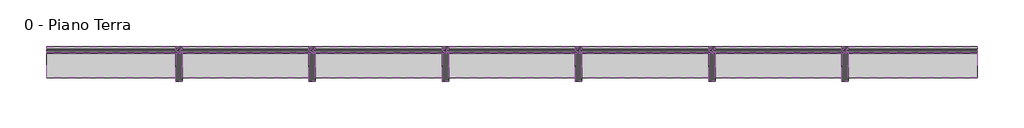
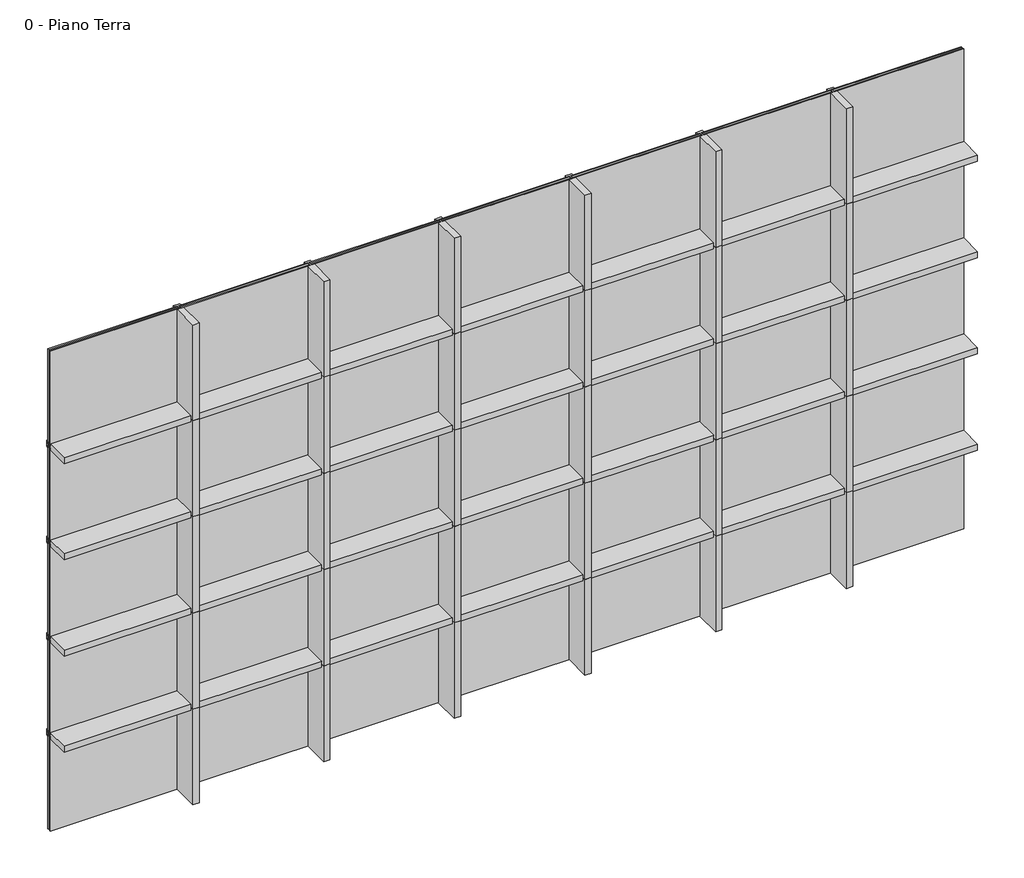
# One storey: 58 members, 35 plates.
"""IFC4 building model written with IfcOpenShell, lengths in millimetres."""

from ifc_helpers import new_model, si_unit, origin, place, context, project, spatial, transform, mapped, element, save
from components import montante_rettangolare_eeaf3a97, montante_rettangolare_05e2e7f5, montante_rettangolare_42aabf74, montante_rettangolare_7fc66ecf, montante_rettangolare_3d79a1b0, plate_78587679

model = new_model("IFC4")

# Units and contexts
model_context = context("Model", 3, world=origin())
ifc_project = project(units=[si_unit("LENGTHUNIT", "METRE", prefix="MILLI")], contexts=[model_context])

# Site, building, storey
site = spatial("IfcSite", under=ifc_project)
building = spatial("IfcBuilding", under=site)
storey = spatial("IfcBuildingStorey", under=building, Name="0 - Piano Terra", Elevation=0.0)

# Members
placement = place(None, origin())
montante_rettangolare_shape = montante_rettangolare_eeaf3a97(model_context)
element("IfcMember", 1, ObjectType="Montante rettangolare : Aluk_SL50_Montante K735_vetro 32", at=placement, inside=storey, context=model_context, shape_type="MappedRepresentation", body=[
    mapped(montante_rettangolare_shape, transform((-9691.0747002, -189.1549061, 0.0), x_axis=(1.0, 0.0, 0.0), y_axis=(0.0, -1.0, 0.0), z_axis=(0.0, 0.0, -1.0))),
])
element("IfcMember", 2, ObjectType="Montante rettangolare : Aluk_SL50_Montante K735_vetro 32", at=placement, inside=storey, context=model_context, shape_type="MappedRepresentation", body=[
    mapped(montante_rettangolare_shape, transform((-8660.931843, -189.1549061, 0.0), x_axis=(1.0, 0.0, 0.0), y_axis=(0.0, -1.0, 0.0), z_axis=(0.0, 0.0, -1.0))),
])
element("IfcMember", 3, ObjectType="Montante rettangolare : Aluk_SL50_Montante K735_vetro 32", at=placement, inside=storey, context=model_context, shape_type="MappedRepresentation", body=[
    mapped(montante_rettangolare_shape, transform((-7630.7889859, -189.1549061, 0.0), x_axis=(1.0, 0.0, 0.0), y_axis=(0.0, -1.0, 0.0), z_axis=(0.0, 0.0, -1.0))),
])
element("IfcMember", 4, ObjectType="Montante rettangolare : Aluk_SL50_Montante K735_vetro 32", at=placement, inside=storey, context=model_context, shape_type="MappedRepresentation", body=[
    mapped(montante_rettangolare_shape, transform((-6600.6461287, -189.1549061, 0.0), x_axis=(1.0, 0.0, 0.0), y_axis=(0.0, -1.0, 0.0), z_axis=(0.0, 0.0, -1.0))),
])
element("IfcMember", 5, ObjectType="Montante rettangolare : Aluk_SL50_Montante K735_vetro 32", at=placement, inside=storey, context=model_context, shape_type="MappedRepresentation", body=[
    mapped(montante_rettangolare_shape, transform((-5570.5032716, -189.1549061, 0.0), x_axis=(1.0, 0.0, 0.0), y_axis=(0.0, -1.0, 0.0), z_axis=(0.0, 0.0, -1.0))),
])
element("IfcMember", 6, ObjectType="Montante rettangolare : Aluk_SL50_Montante K735_vetro 32", at=placement, inside=storey, context=model_context, shape_type="MappedRepresentation", body=[
    mapped(montante_rettangolare_shape, transform((-4540.3604145, -189.1549061, 0.0), x_axis=(1.0, 0.0, 0.0), y_axis=(0.0, -1.0, 0.0), z_axis=(0.0, 0.0, -1.0))),
])
montante_rettangolare_2_shape = montante_rettangolare_05e2e7f5(model_context)
element("IfcMember", 7, ObjectType="Montante rettangolare : Aluk_SL50_Montante K735_vetro 32", at=placement, inside=storey, context=model_context, shape_type="MappedRepresentation", body=[
    mapped(montante_rettangolare_2_shape, transform((-9691.0747002, -189.1549061, 796.7), x_axis=(1.0, 0.0, 0.0), y_axis=(0.0, -1.0, 0.0), z_axis=(0.0, 0.0, -1.0))),
])
element("IfcMember", 8, ObjectType="Montante rettangolare : Aluk_SL50_Montante K735_vetro 32", at=placement, inside=storey, context=model_context, shape_type="MappedRepresentation", body=[
    mapped(montante_rettangolare_2_shape, transform((-8660.931843, -189.1549061, 796.7), x_axis=(1.0, 0.0, 0.0), y_axis=(0.0, -1.0, 0.0), z_axis=(0.0, 0.0, -1.0))),
])
element("IfcMember", 9, ObjectType="Montante rettangolare : Aluk_SL50_Montante K735_vetro 32", at=placement, inside=storey, context=model_context, shape_type="MappedRepresentation", body=[
    mapped(montante_rettangolare_2_shape, transform((-7630.7889859, -189.1549061, 796.7), x_axis=(1.0, 0.0, 0.0), y_axis=(0.0, -1.0, 0.0), z_axis=(0.0, 0.0, -1.0))),
])
element("IfcMember", 10, ObjectType="Montante rettangolare : Aluk_SL50_Montante K735_vetro 32", at=placement, inside=storey, context=model_context, shape_type="MappedRepresentation", body=[
    mapped(montante_rettangolare_2_shape, transform((-6600.6461287, -189.1549061, 796.7), x_axis=(1.0, 0.0, 0.0), y_axis=(0.0, -1.0, 0.0), z_axis=(0.0, 0.0, -1.0))),
])
element("IfcMember", 11, ObjectType="Montante rettangolare : Aluk_SL50_Montante K735_vetro 32", at=placement, inside=storey, context=model_context, shape_type="MappedRepresentation", body=[
    mapped(montante_rettangolare_2_shape, transform((-5570.5032716, -189.1549061, 796.7), x_axis=(1.0, 0.0, 0.0), y_axis=(0.0, -1.0, 0.0), z_axis=(0.0, 0.0, -1.0))),
])
element("IfcMember", 12, ObjectType="Montante rettangolare : Aluk_SL50_Montante K735_vetro 32", at=placement, inside=storey, context=model_context, shape_type="MappedRepresentation", body=[
    mapped(montante_rettangolare_2_shape, transform((-9691.0747002, -189.1549061, 1598.9), x_axis=(1.0, 0.0, 0.0), y_axis=(0.0, -1.0, 0.0), z_axis=(0.0, 0.0, -1.0))),
])
element("IfcMember", 13, ObjectType="Montante rettangolare : Aluk_SL50_Montante K735_vetro 32", at=placement, inside=storey, context=model_context, shape_type="MappedRepresentation", body=[
    mapped(montante_rettangolare_2_shape, transform((-8660.931843, -189.1549061, 1598.9), x_axis=(1.0, 0.0, 0.0), y_axis=(0.0, -1.0, 0.0), z_axis=(0.0, 0.0, -1.0))),
])
element("IfcMember", 14, ObjectType="Montante rettangolare : Aluk_SL50_Montante K735_vetro 32", at=placement, inside=storey, context=model_context, shape_type="MappedRepresentation", body=[
    mapped(montante_rettangolare_2_shape, transform((-7630.7889859, -189.1549061, 1598.9), x_axis=(1.0, 0.0, 0.0), y_axis=(0.0, -1.0, 0.0), z_axis=(0.0, 0.0, -1.0))),
])
element("IfcMember", 15, ObjectType="Montante rettangolare : Aluk_SL50_Montante K735_vetro 32", at=placement, inside=storey, context=model_context, shape_type="MappedRepresentation", body=[
    mapped(montante_rettangolare_2_shape, transform((-6600.6461287, -189.1549061, 1598.9), x_axis=(1.0, 0.0, 0.0), y_axis=(0.0, -1.0, 0.0), z_axis=(0.0, 0.0, -1.0))),
])
element("IfcMember", 16, ObjectType="Montante rettangolare : Aluk_SL50_Montante K735_vetro 32", at=placement, inside=storey, context=model_context, shape_type="MappedRepresentation", body=[
    mapped(montante_rettangolare_2_shape, transform((-5570.5032716, -189.1549061, 1598.9), x_axis=(1.0, 0.0, 0.0), y_axis=(0.0, -1.0, 0.0), z_axis=(0.0, 0.0, -1.0))),
])
element("IfcMember", 17, ObjectType="Montante rettangolare : Aluk_SL50_Montante K735_vetro 32", at=placement, inside=storey, context=model_context, shape_type="MappedRepresentation", body=[
    mapped(montante_rettangolare_2_shape, transform((-9691.0747002, -189.1549061, 2401.1), x_axis=(1.0, 0.0, 0.0), y_axis=(0.0, -1.0, 0.0), z_axis=(0.0, 0.0, -1.0))),
])
element("IfcMember", 18, ObjectType="Montante rettangolare : Aluk_SL50_Montante K735_vetro 32", at=placement, inside=storey, context=model_context, shape_type="MappedRepresentation", body=[
    mapped(montante_rettangolare_2_shape, transform((-8660.931843, -189.1549061, 2401.1), x_axis=(1.0, 0.0, 0.0), y_axis=(0.0, -1.0, 0.0), z_axis=(0.0, 0.0, -1.0))),
])
element("IfcMember", 19, ObjectType="Montante rettangolare : Aluk_SL50_Montante K735_vetro 32", at=placement, inside=storey, context=model_context, shape_type="MappedRepresentation", body=[
    mapped(montante_rettangolare_2_shape, transform((-7630.7889859, -189.1549061, 2401.1), x_axis=(1.0, 0.0, 0.0), y_axis=(0.0, -1.0, 0.0), z_axis=(0.0, 0.0, -1.0))),
])
element("IfcMember", 20, ObjectType="Montante rettangolare : Aluk_SL50_Montante K735_vetro 32", at=placement, inside=storey, context=model_context, shape_type="MappedRepresentation", body=[
    mapped(montante_rettangolare_2_shape, transform((-6600.6461287, -189.1549061, 2401.1), x_axis=(1.0, 0.0, 0.0), y_axis=(0.0, -1.0, 0.0), z_axis=(0.0, 0.0, -1.0))),
])
element("IfcMember", 21, ObjectType="Montante rettangolare : Aluk_SL50_Montante K735_vetro 32", at=placement, inside=storey, context=model_context, shape_type="MappedRepresentation", body=[
    mapped(montante_rettangolare_2_shape, transform((-5570.5032716, -189.1549061, 2401.1), x_axis=(1.0, 0.0, 0.0), y_axis=(0.0, -1.0, 0.0), z_axis=(0.0, 0.0, -1.0))),
])
element("IfcMember", 22, ObjectType="Montante rettangolare : Aluk_SL50_Montante K735_vetro 32", at=placement, inside=storey, context=model_context, shape_type="MappedRepresentation", body=[
    mapped(montante_rettangolare_2_shape, transform((-4540.3604145, -189.1549061, 796.7), x_axis=(1.0, 0.0, 0.0), y_axis=(0.0, -1.0, 0.0), z_axis=(0.0, 0.0, -1.0))),
])
element("IfcMember", 23, ObjectType="Montante rettangolare : Aluk_SL50_Montante K735_vetro 32", at=placement, inside=storey, context=model_context, shape_type="MappedRepresentation", body=[
    mapped(montante_rettangolare_2_shape, transform((-4540.3604145, -189.1549061, 1598.9), x_axis=(1.0, 0.0, 0.0), y_axis=(0.0, -1.0, 0.0), z_axis=(0.0, 0.0, -1.0))),
])
element("IfcMember", 24, ObjectType="Montante rettangolare : Aluk_SL50_Montante K735_vetro 32", at=placement, inside=storey, context=model_context, shape_type="MappedRepresentation", body=[
    mapped(montante_rettangolare_2_shape, transform((-4540.3604145, -189.1549061, 2401.1), x_axis=(1.0, 0.0, 0.0), y_axis=(0.0, -1.0, 0.0), z_axis=(0.0, 0.0, -1.0))),
])
element("IfcMember", 25, ObjectType="Montante rettangolare : Aluk_SL50_Montante K735_vetro 32", at=placement, inside=storey, context=model_context, shape_type="MappedRepresentation", body=[
    mapped(montante_rettangolare_shape, transform((-9691.0747002, -189.1549061, 3203.3), x_axis=(1.0, 0.0, 0.0), y_axis=(0.0, -1.0, 0.0), z_axis=(0.0, 0.0, -1.0))),
])
element("IfcMember", 26, ObjectType="Montante rettangolare : Aluk_SL50_Montante K735_vetro 32", at=placement, inside=storey, context=model_context, shape_type="MappedRepresentation", body=[
    mapped(montante_rettangolare_shape, transform((-8660.931843, -189.1549061, 3203.3), x_axis=(1.0, 0.0, 0.0), y_axis=(0.0, -1.0, 0.0), z_axis=(0.0, 0.0, -1.0))),
])
element("IfcMember", 27, ObjectType="Montante rettangolare : Aluk_SL50_Montante K735_vetro 32", at=placement, inside=storey, context=model_context, shape_type="MappedRepresentation", body=[
    mapped(montante_rettangolare_shape, transform((-7630.7889859, -189.1549061, 3203.3), x_axis=(1.0, 0.0, 0.0), y_axis=(0.0, -1.0, 0.0), z_axis=(0.0, 0.0, -1.0))),
])
element("IfcMember", 28, ObjectType="Montante rettangolare : Aluk_SL50_Montante K735_vetro 32", at=placement, inside=storey, context=model_context, shape_type="MappedRepresentation", body=[
    mapped(montante_rettangolare_shape, transform((-6600.6461287, -189.1549061, 3203.3), x_axis=(1.0, 0.0, 0.0), y_axis=(0.0, -1.0, 0.0), z_axis=(0.0, 0.0, -1.0))),
])
element("IfcMember", 29, ObjectType="Montante rettangolare : Aluk_SL50_Montante K735_vetro 32", at=placement, inside=storey, context=model_context, shape_type="MappedRepresentation", body=[
    mapped(montante_rettangolare_shape, transform((-5570.5032716, -189.1549061, 3203.3), x_axis=(1.0, 0.0, 0.0), y_axis=(0.0, -1.0, 0.0), z_axis=(0.0, 0.0, -1.0))),
])
element("IfcMember", 30, ObjectType="Montante rettangolare : Aluk_SL50_Montante K735_vetro 32", at=placement, inside=storey, context=model_context, shape_type="MappedRepresentation", body=[
    mapped(montante_rettangolare_shape, transform((-4540.3604145, -189.1549061, 3203.3), x_axis=(1.0, 0.0, 0.0), y_axis=(0.0, -1.0, 0.0), z_axis=(0.0, 0.0, -1.0))),
])
montante_rettangolare_3_shape = montante_rettangolare_42aabf74(model_context)
element("IfcMember", 31, ObjectType="Montante rettangolare : Aluk_SL50_Traverso K746_vetro 32", at=placement, inside=storey, context=model_context, shape_type="MappedRepresentation", body=[
    mapped(montante_rettangolare_3_shape, transform((-9716.1189426, -189.1549061, 796.7), x_axis=(0.0, 0.0, 1.0), y_axis=(0.0, -1.0, 0.0), z_axis=(1.0, 0.0, 0.0))),
])
element("IfcMember", 32, ObjectType="Montante rettangolare : Aluk_SL50_Traverso K746_vetro 32", at=placement, inside=storey, context=model_context, shape_type="MappedRepresentation", body=[
    mapped(montante_rettangolare_3_shape, transform((-9716.1189426, -189.1549061, 1598.9), x_axis=(0.0, 0.0, 1.0), y_axis=(0.0, -1.0, 0.0), z_axis=(1.0, 0.0, 0.0))),
])
element("IfcMember", 33, ObjectType="Montante rettangolare : Aluk_SL50_Traverso K746_vetro 32", at=placement, inside=storey, context=model_context, shape_type="MappedRepresentation", body=[
    mapped(montante_rettangolare_3_shape, transform((-9716.1189426, -189.1549061, 2401.1), x_axis=(0.0, 0.0, 1.0), y_axis=(0.0, -1.0, 0.0), z_axis=(1.0, 0.0, 0.0))),
])
element("IfcMember", 34, ObjectType="Montante rettangolare : Aluk_SL50_Traverso K746_vetro 32", at=placement, inside=storey, context=model_context, shape_type="MappedRepresentation", body=[
    mapped(montante_rettangolare_3_shape, transform((-9716.1189426, -189.1549061, 3203.3), x_axis=(0.0, 0.0, 1.0), y_axis=(0.0, -1.0, 0.0), z_axis=(1.0, 0.0, 0.0))),
])
montante_rettangolare_4_shape = montante_rettangolare_7fc66ecf(model_context)
element("IfcMember", 35, ObjectType="Montante rettangolare : Aluk_SL50_Traverso K746_vetro 32", at=placement, inside=storey, context=model_context, shape_type="MappedRepresentation", body=[
    mapped(montante_rettangolare_4_shape, transform((-8685.9760854, -189.1549061, 796.7), x_axis=(0.0, 0.0, 1.0), y_axis=(0.0, -1.0, 0.0), z_axis=(1.0, 0.0, 0.0))),
])
element("IfcMember", 36, ObjectType="Montante rettangolare : Aluk_SL50_Traverso K746_vetro 32", at=placement, inside=storey, context=model_context, shape_type="MappedRepresentation", body=[
    mapped(montante_rettangolare_4_shape, transform((-7655.8332283, -189.1549061, 796.7), x_axis=(0.0, 0.0, 1.0), y_axis=(0.0, -1.0, 0.0), z_axis=(1.0, 0.0, 0.0))),
])
element("IfcMember", 37, ObjectType="Montante rettangolare : Aluk_SL50_Traverso K746_vetro 32", at=placement, inside=storey, context=model_context, shape_type="MappedRepresentation", body=[
    mapped(montante_rettangolare_4_shape, transform((-6625.6903711, -189.1549061, 796.7), x_axis=(0.0, 0.0, 1.0), y_axis=(0.0, -1.0, 0.0), z_axis=(1.0, 0.0, 0.0))),
])
element("IfcMember", 38, ObjectType="Montante rettangolare : Aluk_SL50_Traverso K746_vetro 32", at=placement, inside=storey, context=model_context, shape_type="MappedRepresentation", body=[
    mapped(montante_rettangolare_4_shape, transform((-5595.547514, -189.1549061, 796.7), x_axis=(0.0, 0.0, 1.0), y_axis=(0.0, -1.0, 0.0), z_axis=(1.0, 0.0, 0.0))),
])
element("IfcMember", 39, ObjectType="Montante rettangolare : Aluk_SL50_Traverso K746_vetro 32", at=placement, inside=storey, context=model_context, shape_type="MappedRepresentation", body=[
    mapped(montante_rettangolare_4_shape, transform((-4565.4046569, -189.1549061, 796.7), x_axis=(0.0, 0.0, 1.0), y_axis=(0.0, -1.0, 0.0), z_axis=(1.0, 0.0, 0.0))),
])
element("IfcMember", 40, ObjectType="Montante rettangolare : Aluk_SL50_Traverso K746_vetro 32", at=placement, inside=storey, context=model_context, shape_type="MappedRepresentation", body=[
    mapped(montante_rettangolare_4_shape, transform((-8685.9760854, -189.1549061, 1598.9), x_axis=(0.0, 0.0, 1.0), y_axis=(0.0, -1.0, 0.0), z_axis=(1.0, 0.0, 0.0))),
])
element("IfcMember", 41, ObjectType="Montante rettangolare : Aluk_SL50_Traverso K746_vetro 32", at=placement, inside=storey, context=model_context, shape_type="MappedRepresentation", body=[
    mapped(montante_rettangolare_4_shape, transform((-7655.8332283, -189.1549061, 1598.9), x_axis=(0.0, 0.0, 1.0), y_axis=(0.0, -1.0, 0.0), z_axis=(1.0, 0.0, 0.0))),
])
element("IfcMember", 42, ObjectType="Montante rettangolare : Aluk_SL50_Traverso K746_vetro 32", at=placement, inside=storey, context=model_context, shape_type="MappedRepresentation", body=[
    mapped(montante_rettangolare_4_shape, transform((-6625.6903711, -189.1549061, 1598.9), x_axis=(0.0, 0.0, 1.0), y_axis=(0.0, -1.0, 0.0), z_axis=(1.0, 0.0, 0.0))),
])
element("IfcMember", 43, ObjectType="Montante rettangolare : Aluk_SL50_Traverso K746_vetro 32", at=placement, inside=storey, context=model_context, shape_type="MappedRepresentation", body=[
    mapped(montante_rettangolare_4_shape, transform((-5595.547514, -189.1549061, 1598.9), x_axis=(0.0, 0.0, 1.0), y_axis=(0.0, -1.0, 0.0), z_axis=(1.0, 0.0, 0.0))),
])
element("IfcMember", 44, ObjectType="Montante rettangolare : Aluk_SL50_Traverso K746_vetro 32", at=placement, inside=storey, context=model_context, shape_type="MappedRepresentation", body=[
    mapped(montante_rettangolare_4_shape, transform((-4565.4046569, -189.1549061, 1598.9), x_axis=(0.0, 0.0, 1.0), y_axis=(0.0, -1.0, 0.0), z_axis=(1.0, 0.0, 0.0))),
])
element("IfcMember", 45, ObjectType="Montante rettangolare : Aluk_SL50_Traverso K746_vetro 32", at=placement, inside=storey, context=model_context, shape_type="MappedRepresentation", body=[
    mapped(montante_rettangolare_4_shape, transform((-8685.9760854, -189.1549061, 2401.1), x_axis=(0.0, 0.0, 1.0), y_axis=(0.0, -1.0, 0.0), z_axis=(1.0, 0.0, 0.0))),
])
element("IfcMember", 46, ObjectType="Montante rettangolare : Aluk_SL50_Traverso K746_vetro 32", at=placement, inside=storey, context=model_context, shape_type="MappedRepresentation", body=[
    mapped(montante_rettangolare_4_shape, transform((-7655.8332283, -189.1549061, 2401.1), x_axis=(0.0, 0.0, 1.0), y_axis=(0.0, -1.0, 0.0), z_axis=(1.0, 0.0, 0.0))),
])
element("IfcMember", 47, ObjectType="Montante rettangolare : Aluk_SL50_Traverso K746_vetro 32", at=placement, inside=storey, context=model_context, shape_type="MappedRepresentation", body=[
    mapped(montante_rettangolare_4_shape, transform((-6625.6903711, -189.1549061, 2401.1), x_axis=(0.0, 0.0, 1.0), y_axis=(0.0, -1.0, 0.0), z_axis=(1.0, 0.0, 0.0))),
])
element("IfcMember", 48, ObjectType="Montante rettangolare : Aluk_SL50_Traverso K746_vetro 32", at=placement, inside=storey, context=model_context, shape_type="MappedRepresentation", body=[
    mapped(montante_rettangolare_4_shape, transform((-5595.547514, -189.1549061, 2401.1), x_axis=(0.0, 0.0, 1.0), y_axis=(0.0, -1.0, 0.0), z_axis=(1.0, 0.0, 0.0))),
])
element("IfcMember", 49, ObjectType="Montante rettangolare : Aluk_SL50_Traverso K746_vetro 32", at=placement, inside=storey, context=model_context, shape_type="MappedRepresentation", body=[
    mapped(montante_rettangolare_4_shape, transform((-4565.4046569, -189.1549061, 2401.1), x_axis=(0.0, 0.0, 1.0), y_axis=(0.0, -1.0, 0.0), z_axis=(1.0, 0.0, 0.0))),
])
element("IfcMember", 50, ObjectType="Montante rettangolare : Aluk_SL50_Traverso K746_vetro 32", at=placement, inside=storey, context=model_context, shape_type="MappedRepresentation", body=[
    mapped(montante_rettangolare_4_shape, transform((-8685.9760854, -189.1549061, 3203.3), x_axis=(0.0, 0.0, 1.0), y_axis=(0.0, -1.0, 0.0), z_axis=(1.0, 0.0, 0.0))),
])
element("IfcMember", 51, ObjectType="Montante rettangolare : Aluk_SL50_Traverso K746_vetro 32", at=placement, inside=storey, context=model_context, shape_type="MappedRepresentation", body=[
    mapped(montante_rettangolare_4_shape, transform((-7655.8332283, -189.1549061, 3203.3), x_axis=(0.0, 0.0, 1.0), y_axis=(0.0, -1.0, 0.0), z_axis=(1.0, 0.0, 0.0))),
])
element("IfcMember", 52, ObjectType="Montante rettangolare : Aluk_SL50_Traverso K746_vetro 32", at=placement, inside=storey, context=model_context, shape_type="MappedRepresentation", body=[
    mapped(montante_rettangolare_4_shape, transform((-6625.6903711, -189.1549061, 3203.3), x_axis=(0.0, 0.0, 1.0), y_axis=(0.0, -1.0, 0.0), z_axis=(1.0, 0.0, 0.0))),
])
element("IfcMember", 53, ObjectType="Montante rettangolare : Aluk_SL50_Traverso K746_vetro 32", at=placement, inside=storey, context=model_context, shape_type="MappedRepresentation", body=[
    mapped(montante_rettangolare_4_shape, transform((-5595.547514, -189.1549061, 3203.3), x_axis=(0.0, 0.0, 1.0), y_axis=(0.0, -1.0, 0.0), z_axis=(1.0, 0.0, 0.0))),
])
element("IfcMember", 54, ObjectType="Montante rettangolare : Aluk_SL50_Traverso K746_vetro 32", at=placement, inside=storey, context=model_context, shape_type="MappedRepresentation", body=[
    mapped(montante_rettangolare_4_shape, transform((-4565.4046569, -189.1549061, 3203.3), x_axis=(0.0, 0.0, 1.0), y_axis=(0.0, -1.0, 0.0), z_axis=(1.0, 0.0, 0.0))),
])
montante_rettangolare_5_shape = montante_rettangolare_3d79a1b0(model_context)
element("IfcMember", 55, ObjectType="Montante rettangolare : Aluk_SL50_Traverso K746_vetro 32", at=placement, inside=storey, context=model_context, shape_type="MappedRepresentation", body=[
    mapped(montante_rettangolare_5_shape, transform((-3515.7175573, -189.1549061, 796.7), x_axis=(0.0, 0.0, 1.0), y_axis=(0.0, -1.0, 0.0), z_axis=(1.0, 0.0, 0.0))),
])
element("IfcMember", 56, ObjectType="Montante rettangolare : Aluk_SL50_Traverso K746_vetro 32", at=placement, inside=storey, context=model_context, shape_type="MappedRepresentation", body=[
    mapped(montante_rettangolare_5_shape, transform((-3515.7175573, -189.1549061, 1598.9), x_axis=(0.0, 0.0, 1.0), y_axis=(0.0, -1.0, 0.0), z_axis=(1.0, 0.0, 0.0))),
])
element("IfcMember", 57, ObjectType="Montante rettangolare : Aluk_SL50_Traverso K746_vetro 32", at=placement, inside=storey, context=model_context, shape_type="MappedRepresentation", body=[
    mapped(montante_rettangolare_5_shape, transform((-3515.7175573, -189.1549061, 2401.1), x_axis=(0.0, 0.0, 1.0), y_axis=(0.0, -1.0, 0.0), z_axis=(1.0, 0.0, 0.0))),
])
element("IfcMember", 58, ObjectType="Montante rettangolare : Aluk_SL50_Traverso K746_vetro 32", at=placement, inside=storey, context=model_context, shape_type="MappedRepresentation", body=[
    mapped(montante_rettangolare_5_shape, transform((-3515.7175573, -189.1549061, 3203.3), x_axis=(0.0, 0.0, 1.0), y_axis=(0.0, -1.0, 0.0), z_axis=(1.0, 0.0, 0.0))),
])

# Plates
plate_shape = plate_78587679(model_context)
element("IfcPlate", 59, ObjectType="Aluk_Pannello di facciata vetro : Aluk_Pannello di facciata vetro", at=placement, inside=storey, context=model_context, shape_type="MappedRepresentation", body=[
    mapped(plate_shape, transform((-10206.1461287, -189.1549061, 0.0), x_axis=(1.0, 0.0, 0.0), y_axis=(0.0, 1.0, 0.0), z_axis=(0.0, 0.0, 1.0))),
])
element("IfcPlate", 60, ObjectType="Aluk_Pannello di facciata vetro : Aluk_Pannello di facciata vetro", at=placement, inside=storey, context=model_context, shape_type="MappedRepresentation", body=[
    mapped(plate_shape, transform((-9176.0032716, -189.1549061, 0.0), x_axis=(1.0, 0.0, 0.0), y_axis=(0.0, 1.0, 0.0), z_axis=(0.0, 0.0, 1.0))),
])
element("IfcPlate", 61, ObjectType="Aluk_Pannello di facciata vetro : Aluk_Pannello di facciata vetro", at=placement, inside=storey, context=model_context, shape_type="MappedRepresentation", body=[
    mapped(plate_shape, transform((-8145.8604145, -189.1549061, 0.0), x_axis=(1.0, 0.0, 0.0), y_axis=(0.0, 1.0, 0.0), z_axis=(0.0, 0.0, 1.0))),
])
element("IfcPlate", 62, ObjectType="Aluk_Pannello di facciata vetro : Aluk_Pannello di facciata vetro", at=placement, inside=storey, context=model_context, shape_type="MappedRepresentation", body=[
    mapped(plate_shape, transform((-7115.7175573, -189.1549061, 0.0), x_axis=(1.0, 0.0, 0.0), y_axis=(0.0, 1.0, 0.0), z_axis=(0.0, 0.0, 1.0))),
])
element("IfcPlate", 63, ObjectType="Aluk_Pannello di facciata vetro : Aluk_Pannello di facciata vetro", at=placement, inside=storey, context=model_context, shape_type="MappedRepresentation", body=[
    mapped(plate_shape, transform((-6085.5747002, -189.1549061, 0.0), x_axis=(1.0, 0.0, 0.0), y_axis=(0.0, 1.0, 0.0), z_axis=(0.0, 0.0, 1.0))),
])
element("IfcPlate", 64, ObjectType="Aluk_Pannello di facciata vetro : Aluk_Pannello di facciata vetro", at=placement, inside=storey, context=model_context, shape_type="MappedRepresentation", body=[
    mapped(plate_shape, transform((-5055.431843, -189.1549061, 0.0), x_axis=(1.0, 0.0, 0.0), y_axis=(0.0, 1.0, 0.0), z_axis=(0.0, 0.0, 1.0))),
])
element("IfcPlate", 65, ObjectType="Aluk_Pannello di facciata vetro : Aluk_Pannello di facciata vetro", at=placement, inside=storey, context=model_context, shape_type="MappedRepresentation", body=[
    mapped(plate_shape, transform((-10206.1461287, -189.1549061, 802.2), x_axis=(1.0, 0.0, 0.0), y_axis=(0.0, 1.0, 0.0), z_axis=(0.0, 0.0, 1.0))),
])
element("IfcPlate", 66, ObjectType="Aluk_Pannello di facciata vetro : Aluk_Pannello di facciata vetro", at=placement, inside=storey, context=model_context, shape_type="MappedRepresentation", body=[
    mapped(plate_shape, transform((-9176.0032716, -189.1549061, 802.2), x_axis=(1.0, 0.0, 0.0), y_axis=(0.0, 1.0, 0.0), z_axis=(0.0, 0.0, 1.0))),
])
element("IfcPlate", 67, ObjectType="Aluk_Pannello di facciata vetro : Aluk_Pannello di facciata vetro", at=placement, inside=storey, context=model_context, shape_type="MappedRepresentation", body=[
    mapped(plate_shape, transform((-8145.8604145, -189.1549061, 802.2), x_axis=(1.0, 0.0, 0.0), y_axis=(0.0, 1.0, 0.0), z_axis=(0.0, 0.0, 1.0))),
])
element("IfcPlate", 68, ObjectType="Aluk_Pannello di facciata vetro : Aluk_Pannello di facciata vetro", at=placement, inside=storey, context=model_context, shape_type="MappedRepresentation", body=[
    mapped(plate_shape, transform((-7115.7175573, -189.1549061, 802.2), x_axis=(1.0, 0.0, 0.0), y_axis=(0.0, 1.0, 0.0), z_axis=(0.0, 0.0, 1.0))),
])
element("IfcPlate", 69, ObjectType="Aluk_Pannello di facciata vetro : Aluk_Pannello di facciata vetro", at=placement, inside=storey, context=model_context, shape_type="MappedRepresentation", body=[
    mapped(plate_shape, transform((-6085.5747002, -189.1549061, 802.2), x_axis=(1.0, 0.0, 0.0), y_axis=(0.0, 1.0, 0.0), z_axis=(0.0, 0.0, 1.0))),
])
element("IfcPlate", 70, ObjectType="Aluk_Pannello di facciata vetro : Aluk_Pannello di facciata vetro", at=placement, inside=storey, context=model_context, shape_type="MappedRepresentation", body=[
    mapped(plate_shape, transform((-5055.431843, -189.1549061, 802.2), x_axis=(1.0, 0.0, 0.0), y_axis=(0.0, 1.0, 0.0), z_axis=(0.0, 0.0, 1.0))),
])
element("IfcPlate", 71, ObjectType="Aluk_Pannello di facciata vetro : Aluk_Pannello di facciata vetro", at=placement, inside=storey, context=model_context, shape_type="MappedRepresentation", body=[
    mapped(plate_shape, transform((-10206.1461287, -189.1549061, 1604.4), x_axis=(1.0, 0.0, 0.0), y_axis=(0.0, 1.0, 0.0), z_axis=(0.0, 0.0, 1.0))),
])
element("IfcPlate", 72, ObjectType="Aluk_Pannello di facciata vetro : Aluk_Pannello di facciata vetro", at=placement, inside=storey, context=model_context, shape_type="MappedRepresentation", body=[
    mapped(plate_shape, transform((-9176.0032716, -189.1549061, 1604.4), x_axis=(1.0, 0.0, 0.0), y_axis=(0.0, 1.0, 0.0), z_axis=(0.0, 0.0, 1.0))),
])
element("IfcPlate", 73, ObjectType="Aluk_Pannello di facciata vetro : Aluk_Pannello di facciata vetro", at=placement, inside=storey, context=model_context, shape_type="MappedRepresentation", body=[
    mapped(plate_shape, transform((-8145.8604145, -189.1549061, 1604.4), x_axis=(1.0, 0.0, 0.0), y_axis=(0.0, 1.0, 0.0), z_axis=(0.0, 0.0, 1.0))),
])
element("IfcPlate", 74, ObjectType="Aluk_Pannello di facciata vetro : Aluk_Pannello di facciata vetro", at=placement, inside=storey, context=model_context, shape_type="MappedRepresentation", body=[
    mapped(plate_shape, transform((-7115.7175573, -189.1549061, 1604.4), x_axis=(1.0, 0.0, 0.0), y_axis=(0.0, 1.0, 0.0), z_axis=(0.0, 0.0, 1.0))),
])
element("IfcPlate", 75, ObjectType="Aluk_Pannello di facciata vetro : Aluk_Pannello di facciata vetro", at=placement, inside=storey, context=model_context, shape_type="MappedRepresentation", body=[
    mapped(plate_shape, transform((-6085.5747002, -189.1549061, 1604.4), x_axis=(1.0, 0.0, 0.0), y_axis=(0.0, 1.0, 0.0), z_axis=(0.0, 0.0, 1.0))),
])
element("IfcPlate", 76, ObjectType="Aluk_Pannello di facciata vetro : Aluk_Pannello di facciata vetro", at=placement, inside=storey, context=model_context, shape_type="MappedRepresentation", body=[
    mapped(plate_shape, transform((-5055.431843, -189.1549061, 1604.4), x_axis=(1.0, 0.0, 0.0), y_axis=(0.0, 1.0, 0.0), z_axis=(0.0, 0.0, 1.0))),
])
element("IfcPlate", 77, ObjectType="Aluk_Pannello di facciata vetro : Aluk_Pannello di facciata vetro", at=placement, inside=storey, context=model_context, shape_type="MappedRepresentation", body=[
    mapped(plate_shape, transform((-10206.1461287, -189.1549061, 2406.6), x_axis=(1.0, 0.0, 0.0), y_axis=(0.0, 1.0, 0.0), z_axis=(0.0, 0.0, 1.0))),
])
element("IfcPlate", 78, ObjectType="Aluk_Pannello di facciata vetro : Aluk_Pannello di facciata vetro", at=placement, inside=storey, context=model_context, shape_type="MappedRepresentation", body=[
    mapped(plate_shape, transform((-9176.0032716, -189.1549061, 2406.6), x_axis=(1.0, 0.0, 0.0), y_axis=(0.0, 1.0, 0.0), z_axis=(0.0, 0.0, 1.0))),
])
element("IfcPlate", 79, ObjectType="Aluk_Pannello di facciata vetro : Aluk_Pannello di facciata vetro", at=placement, inside=storey, context=model_context, shape_type="MappedRepresentation", body=[
    mapped(plate_shape, transform((-8145.8604145, -189.1549061, 2406.6), x_axis=(1.0, 0.0, 0.0), y_axis=(0.0, 1.0, 0.0), z_axis=(0.0, 0.0, 1.0))),
])
element("IfcPlate", 80, ObjectType="Aluk_Pannello di facciata vetro : Aluk_Pannello di facciata vetro", at=placement, inside=storey, context=model_context, shape_type="MappedRepresentation", body=[
    mapped(plate_shape, transform((-7115.7175573, -189.1549061, 2406.6), x_axis=(1.0, 0.0, 0.0), y_axis=(0.0, 1.0, 0.0), z_axis=(0.0, 0.0, 1.0))),
])
element("IfcPlate", 81, ObjectType="Aluk_Pannello di facciata vetro : Aluk_Pannello di facciata vetro", at=placement, inside=storey, context=model_context, shape_type="MappedRepresentation", body=[
    mapped(plate_shape, transform((-6085.5747002, -189.1549061, 2406.6), x_axis=(1.0, 0.0, 0.0), y_axis=(0.0, 1.0, 0.0), z_axis=(0.0, 0.0, 1.0))),
])
element("IfcPlate", 82, ObjectType="Aluk_Pannello di facciata vetro : Aluk_Pannello di facciata vetro", at=placement, inside=storey, context=model_context, shape_type="MappedRepresentation", body=[
    mapped(plate_shape, transform((-5055.431843, -189.1549061, 2406.6), x_axis=(1.0, 0.0, 0.0), y_axis=(0.0, 1.0, 0.0), z_axis=(0.0, 0.0, 1.0))),
])
element("IfcPlate", 83, ObjectType="Aluk_Pannello di facciata vetro : Aluk_Pannello di facciata vetro", at=placement, inside=storey, context=model_context, shape_type="MappedRepresentation", body=[
    mapped(plate_shape, transform((-4025.2889859, -189.1549061, 0.0), x_axis=(1.0, 0.0, 0.0), y_axis=(0.0, 1.0, 0.0), z_axis=(0.0, 0.0, 1.0))),
])
element("IfcPlate", 84, ObjectType="Aluk_Pannello di facciata vetro : Aluk_Pannello di facciata vetro", at=placement, inside=storey, context=model_context, shape_type="MappedRepresentation", body=[
    mapped(plate_shape, transform((-4025.2889859, -189.1549061, 802.2), x_axis=(1.0, 0.0, 0.0), y_axis=(0.0, 1.0, 0.0), z_axis=(0.0, 0.0, 1.0))),
])
element("IfcPlate", 85, ObjectType="Aluk_Pannello di facciata vetro : Aluk_Pannello di facciata vetro", at=placement, inside=storey, context=model_context, shape_type="MappedRepresentation", body=[
    mapped(plate_shape, transform((-4025.2889859, -189.1549061, 1604.4), x_axis=(1.0, 0.0, 0.0), y_axis=(0.0, 1.0, 0.0), z_axis=(0.0, 0.0, 1.0))),
])
element("IfcPlate", 86, ObjectType="Aluk_Pannello di facciata vetro : Aluk_Pannello di facciata vetro", at=placement, inside=storey, context=model_context, shape_type="MappedRepresentation", body=[
    mapped(plate_shape, transform((-4025.2889859, -189.1549061, 2406.6), x_axis=(1.0, 0.0, 0.0), y_axis=(0.0, 1.0, 0.0), z_axis=(0.0, 0.0, 1.0))),
])
element("IfcPlate", 87, ObjectType="Aluk_Pannello di facciata vetro : Aluk_Pannello di facciata vetro", at=placement, inside=storey, context=model_context, shape_type="MappedRepresentation", body=[
    mapped(plate_shape, transform((-10206.1461287, -189.1549061, 3208.8), x_axis=(1.0, 0.0, 0.0), y_axis=(0.0, 1.0, 0.0), z_axis=(0.0, 0.0, 1.0))),
])
element("IfcPlate", 88, ObjectType="Aluk_Pannello di facciata vetro : Aluk_Pannello di facciata vetro", at=placement, inside=storey, context=model_context, shape_type="MappedRepresentation", body=[
    mapped(plate_shape, transform((-9176.0032716, -189.1549061, 3208.8), x_axis=(1.0, 0.0, 0.0), y_axis=(0.0, 1.0, 0.0), z_axis=(0.0, 0.0, 1.0))),
])
element("IfcPlate", 89, ObjectType="Aluk_Pannello di facciata vetro : Aluk_Pannello di facciata vetro", at=placement, inside=storey, context=model_context, shape_type="MappedRepresentation", body=[
    mapped(plate_shape, transform((-8145.8604145, -189.1549061, 3208.8), x_axis=(1.0, 0.0, 0.0), y_axis=(0.0, 1.0, 0.0), z_axis=(0.0, 0.0, 1.0))),
])
element("IfcPlate", 90, ObjectType="Aluk_Pannello di facciata vetro : Aluk_Pannello di facciata vetro", at=placement, inside=storey, context=model_context, shape_type="MappedRepresentation", body=[
    mapped(plate_shape, transform((-7115.7175573, -189.1549061, 3208.8), x_axis=(1.0, 0.0, 0.0), y_axis=(0.0, 1.0, 0.0), z_axis=(0.0, 0.0, 1.0))),
])
element("IfcPlate", 91, ObjectType="Aluk_Pannello di facciata vetro : Aluk_Pannello di facciata vetro", at=placement, inside=storey, context=model_context, shape_type="MappedRepresentation", body=[
    mapped(plate_shape, transform((-6085.5747002, -189.1549061, 3208.8), x_axis=(1.0, 0.0, 0.0), y_axis=(0.0, 1.0, 0.0), z_axis=(0.0, 0.0, 1.0))),
])
element("IfcPlate", 92, ObjectType="Aluk_Pannello di facciata vetro : Aluk_Pannello di facciata vetro", at=placement, inside=storey, context=model_context, shape_type="MappedRepresentation", body=[
    mapped(plate_shape, transform((-5055.431843, -189.1549061, 3208.8), x_axis=(1.0, 0.0, 0.0), y_axis=(0.0, 1.0, 0.0), z_axis=(0.0, 0.0, 1.0))),
])
element("IfcPlate", 93, ObjectType="Aluk_Pannello di facciata vetro : Aluk_Pannello di facciata vetro", at=placement, inside=storey, context=model_context, shape_type="MappedRepresentation", body=[
    mapped(plate_shape, transform((-4025.2889859, -189.1549061, 3208.8), x_axis=(1.0, 0.0, 0.0), y_axis=(0.0, 1.0, 0.0), z_axis=(0.0, 0.0, 1.0))),
])

save(model, "model.ifc")
